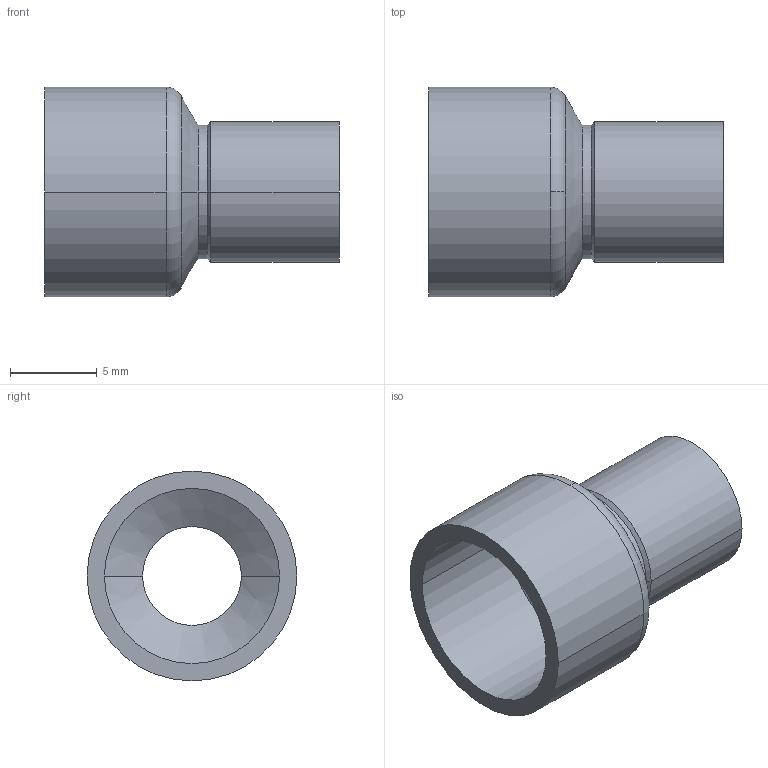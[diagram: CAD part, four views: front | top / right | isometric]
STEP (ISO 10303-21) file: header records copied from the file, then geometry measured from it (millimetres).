
FILE_DESCRIPTION((''),'2;1');
FILE_NAME('G:\Technics\CAD\Bauteile\Serie 15240\15240106.stp','2005-10-21T12:50:58',('boden'),(''),'Autodesk Inventor 8','Autodesk Inventor 8','');
FILE_SCHEMA(('AUTOMOTIVE_DESIGN { 1 0 10303 214 1 1 1 1 }'));
Length unit declared in the file: millimetre
Products named in the file (1): 15240106
Bounding box: 17 x 12.11 x 12.11 mm (x, y, z)
Volume: 512.4 mm3; surface area: 1081.8 mm2
Topology: 1 solids, 1 shells, 24 faces, 52 edges, 30 vertices
Faces by surface type: cylinder 12, cone 8, torus 2, plane 2
Entity records: 683 total; most frequent: DIRECTION 134, CARTESIAN_POINT 107, ORIENTED_EDGE 104, AXIS2_PLACEMENT_3D 57, EDGE_CURVE 52, CIRCLE 32, VERTEX_POINT 30, EDGE_LOOP 26
